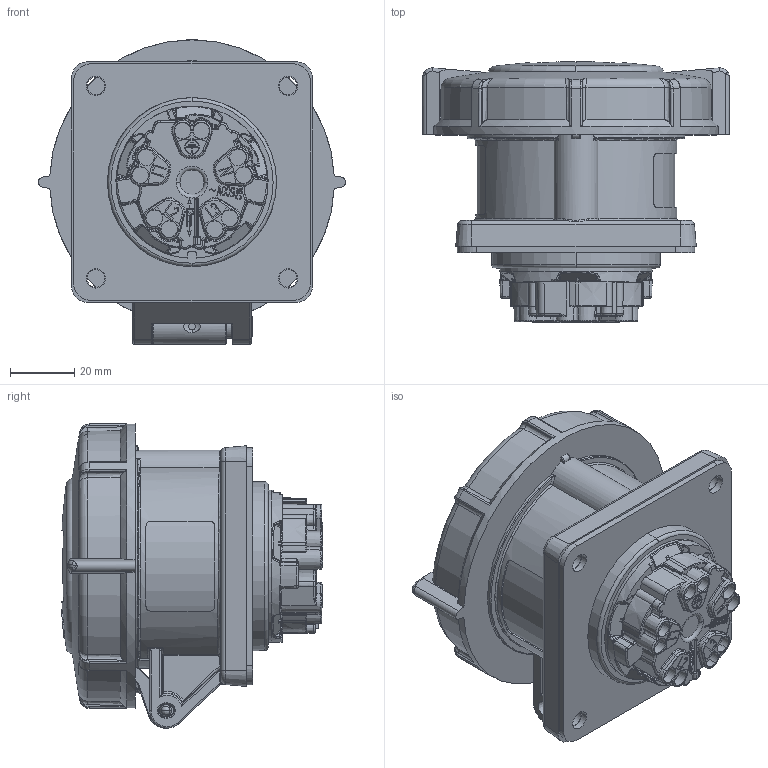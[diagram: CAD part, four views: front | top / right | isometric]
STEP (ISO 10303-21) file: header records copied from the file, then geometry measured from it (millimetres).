
FILE_DESCRIPTION((''),'2;1');
FILE_NAME('1131','2020-11-13T13:15:01',('funke002'),('MENNEKES'),'CREO PARAMETRIC BY PTC INC, 2019080','CREO PARAMETRIC BY PTC INC, 2019080','');
FILE_SCHEMA(('AUTOMOTIVE_DESIGN { 1 0 10303 214 1 1 1 1 }'));
Products named in the file (1): 1131
Bounding box: 95.7 x 81.36 x 94.84 mm (x, y, z)
Volume: 290939.2 mm3; surface area: 40363.7 mm2
Topology: 1 solids, 1 shells, 2253 faces, 5809 edges, 3599 vertices
Faces by surface type: plane 954, cylinder 434, bspline 405, torus 245, cone 130, extrusion 45, sphere 40
Entity records: 100114 total; most frequent: CARTESIAN_POINT 32210, ORIENTED_EDGE 11586, DIRECTION 9688, EDGE_CURVE 5793, VERTEX_POINT 3599, AXIS2_PLACEMENT_3D 3389, VECTOR 2910, LINE 2865
